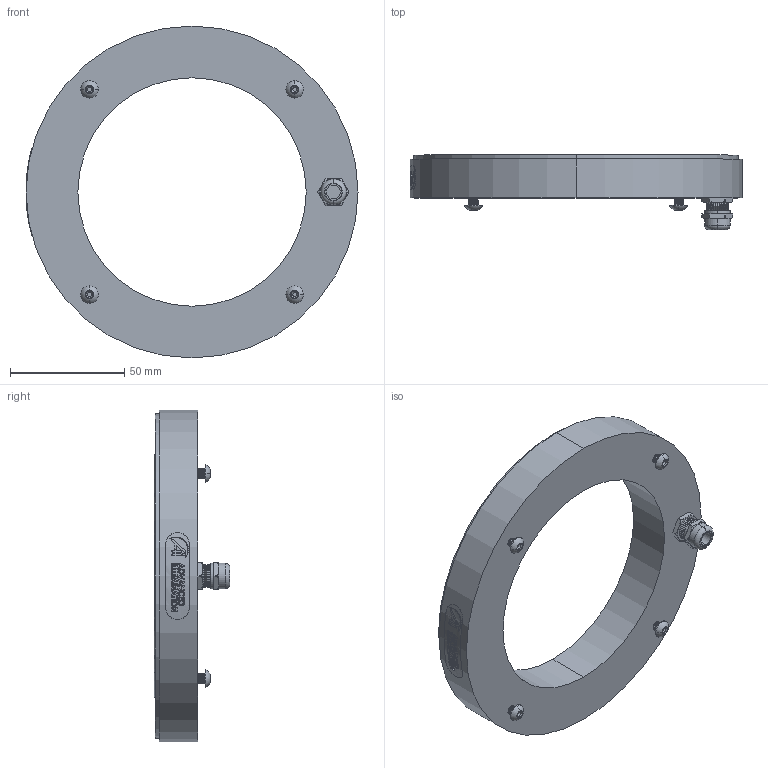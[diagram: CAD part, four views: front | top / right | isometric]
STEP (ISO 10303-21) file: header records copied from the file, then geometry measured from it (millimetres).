
FILE_DESCRIPTION (( 'STEP AP214' ), '1' );
FILE_NAME ('RL208-100_Default.stp', '2021-05-07T17:41:17', ( '' ), ( '' ), 'SwSTEP 2.0', 'SolidWorks 2018', '' );
FILE_SCHEMA (( 'AUTOMOTIVE_DESIGN' ));
Length unit declared in the file: inch
Products named in the file (8): BH-M4x8; 091052 RL208-100; 094421_Default<As Machined>; RL208-100_Default; 091064_Model_Dome Fittings_Thread Type and Size(Dome)_M10 x 1.5_Hazardous Location-Explosive Proof(ATEX and EExe Versions)_No_; 097991_097991; 095443_Default<As Machined>; 094419_Default<As Machined>
Assembly tree (10 placements, depth 2):
  RL208-100_Default
    094419_Default<As Machined>
    091064_Model_Dome Fittings_Thread Type and Size(Dome)_M10 x 1.5_Hazardous Location-Explosive Proof(ATEX and EExe Versions)_No_
    095443_Default<As Machined>
    097991_097991
    094421_Default<As Machined>
    091052 RL208-100
    BH-M4x8  x4
Bounding box: 145.36 x 33.06 x 145.34 mm (x, y, z)
Volume: 114395.2 mm3; surface area: 78922 mm2
Topology: 11 solids, 11 shells, 616 faces, 1494 edges, 943 vertices
Faces by surface type: plane 227, cylinder 180, bspline 95, cone 90, torus 24
Entity records: 25250 total; most frequent: CARTESIAN_POINT 11203, ORIENTED_EDGE 2260, DIRECTION 1932, EDGE_CURVE 1130, AXIS2_PLACEMENT_3D 780, VERTEX_POINT 721, EDGE_LOOP 533, FACE_OUTER_BOUND 472
